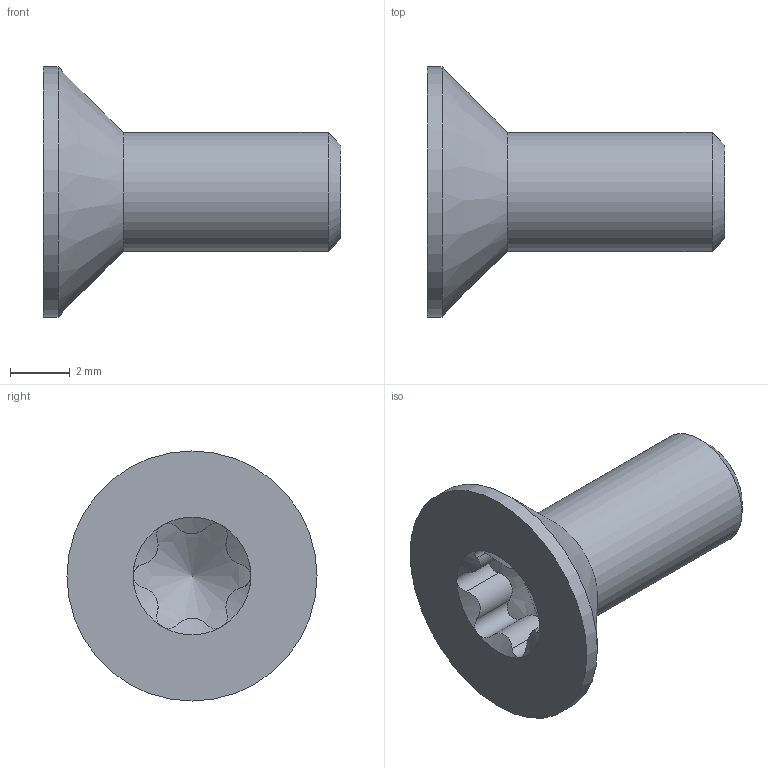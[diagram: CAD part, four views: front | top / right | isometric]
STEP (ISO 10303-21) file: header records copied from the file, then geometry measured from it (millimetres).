
FILE_DESCRIPTION(/* description */ ('BN 3803-Hexalobular (6 Lobe) socket countersunk flat head screws, fully threaded (ISO 14581), stainless steel A2'),/* implementation_level */ '2;1');
FILE_NAME(/* name */ 'C:\ADSK_DMS_WS\Designs\Vorschläge\Loc Schalen\Schraubenlängebestimmung\Schrauben\M4x10 Senkkopfschraube 90°mit TX20 A2.stp',/* time_stamp */ '2021-10-05T14:02:26+02:00',/* author */ ('gm'),/* organization */ ('BOSSARD'),/* preprocessor_version */ 'ST-DEVELOPER v16.5',/* originating_system */ 'Autodesk Inventor 2017',/* authorisation */ '');
FILE_SCHEMA (('AUTOMOTIVE_DESIGN { 1 0 10303 214 3 1 1 }'));
Length unit declared in the file: millimetre
Products named in the file (1): BN 3803  M4x10_INOX A2
Bounding box: 10 x 8.4 x 8.4 mm (x, y, z)
Volume: 169.2 mm3; surface area: 252.1 mm2
Topology: 1 solids, 1 shells, 31 faces, 83 edges, 54 vertices
Faces by surface type: cylinder 14, cone 9, plane 8
Full cylindrical faces by diameter (mm): 4 x1, 8.4 x1
Entity records: 1204 total; most frequent: CARTESIAN_POINT 492, ORIENTED_EDGE 154, DIRECTION 122, EDGE_CURVE 77, AXIS2_PLACEMENT_3D 55, VERTEX_POINT 53, B_SPLINE_CURVE_WITH_KNOTS 42, EDGE_LOOP 36
